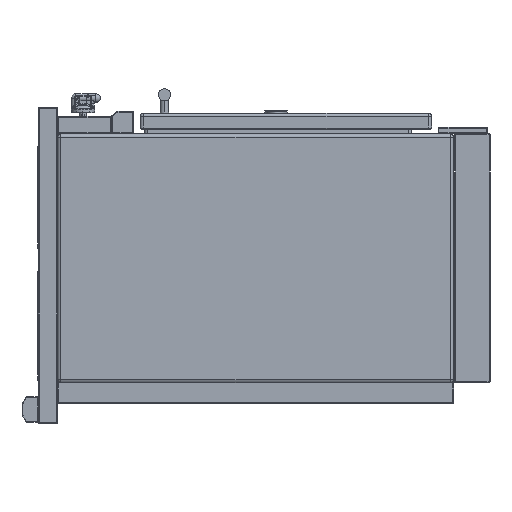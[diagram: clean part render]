
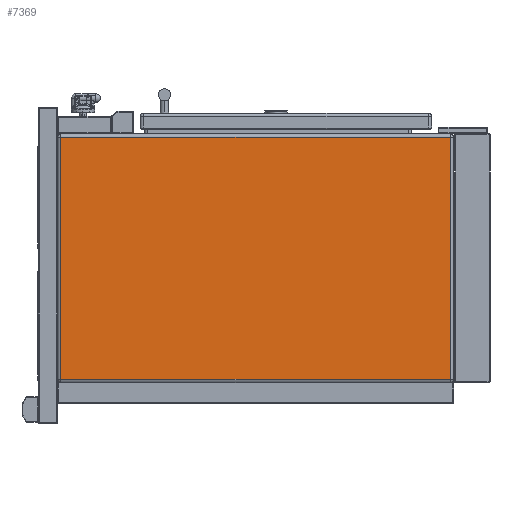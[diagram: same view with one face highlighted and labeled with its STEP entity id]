
A CAD part, left-side view. The second image highlights one B-rep face of the part: STEP entity #7369.
In plain terms, the highlighted planar face has unit normal (-1, 0, 0).
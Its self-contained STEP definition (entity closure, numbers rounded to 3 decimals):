
#1642=DIRECTION('',(0.,1.,0.));
#1643=VECTOR('',#1642,801.);
#1644=CARTESIAN_POINT('',(-1150.,82.,249.));
#1645=LINE('',#1644,#1643);
#1646=DIRECTION('',(0.,0.,1.));
#1647=VECTOR('',#1646,498.);
#1648=CARTESIAN_POINT('',(-1150.,82.,-249.));
#1649=LINE('',#1648,#1647);
#1650=DIRECTION('',(0.,-1.,0.));
#1651=VECTOR('',#1650,801.);
#1652=CARTESIAN_POINT('',(-1150.,883.,-249.));
#1653=LINE('',#1652,#1651);
#1654=DIRECTION('',(0.,0.,-1.));
#1655=VECTOR('',#1654,498.);
#1656=CARTESIAN_POINT('',(-1150.,883.,249.));
#1657=LINE('',#1656,#1655);
#4297=CARTESIAN_POINT('',(-1150.,82.,249.));
#4298=CARTESIAN_POINT('',(-1150.,883.,249.));
#4299=VERTEX_POINT('',#4297);
#4300=VERTEX_POINT('',#4298);
#4301=CARTESIAN_POINT('',(-1150.,82.,-249.));
#4302=VERTEX_POINT('',#4301);
#4325=CARTESIAN_POINT('',(-1150.,883.,-249.));
#4326=VERTEX_POINT('',#4325);
#7355=CARTESIAN_POINT('',(-1150.,0.,0.));
#7356=DIRECTION('',(1.,0.,0.));
#7357=DIRECTION('',(0.,0.,-1.));
#7358=AXIS2_PLACEMENT_3D('',#7355,#7356,#7357);
#7359=PLANE('',#7358);
#7361=ORIENTED_EDGE('',*,*,#7360,.F.);
#7363=ORIENTED_EDGE('',*,*,#7362,.F.);
#7364=ORIENTED_EDGE('',*,*,#7346,.F.);
#7366=ORIENTED_EDGE('',*,*,#7365,.F.);
#7367=EDGE_LOOP('',(#7361,#7363,#7364,#7366));
#7368=FACE_OUTER_BOUND('',#7367,.F.);
#7346=EDGE_CURVE('',#4326,#4302,#1653,.T.);
#7360=EDGE_CURVE('',#4299,#4300,#1645,.T.);
#7362=EDGE_CURVE('',#4302,#4299,#1649,.T.);
#7365=EDGE_CURVE('',#4300,#4326,#1657,.T.);
#7369=ADVANCED_FACE('',(#7368),#7359,.F.);
